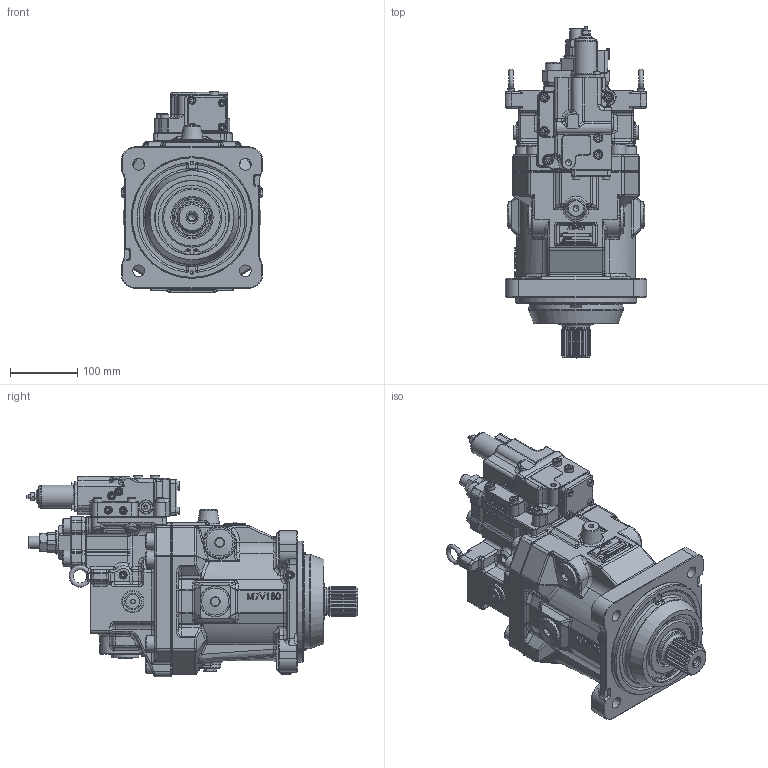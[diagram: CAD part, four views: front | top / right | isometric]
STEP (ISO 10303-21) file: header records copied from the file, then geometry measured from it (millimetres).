
FILE_DESCRIPTION(/* description */ (''),/* implementation_level */ '2;1');
FILE_NAME(/* name */ 'M7V160AC47-AAE#XXXN-01.stp',/* time_stamp */ '2025-12-17T13:58:02Z',/* author */ ('Sjolliffe'),/* organization */ (''),/* preprocessor_version */ 'ST-DEVELOPER v20',/* originating_system */ 'Autodesk Inventor 2024',/* authorisation */ '');
FILE_SCHEMA (('CONFIG_CONTROL_DESIGN'));
Products named in the file (1): M7V160AC47-AAE#XXXN-01
Bounding box: 210 x 493.3 x 300 mm (x, y, z)
Volume: 11236613.6 mm3; surface area: 495758.1 mm2
Topology: 1 solids, 1 shells, 4067 faces, 10288 edges, 6324 vertices
Faces by surface type: plane 1608, cylinder 1329, bspline 517, cone 333, torus 197, sphere 83
Full cylindrical faces by diameter (mm): 1.44 x2, 3 x2, 4.5 x1, 4.917 x2, 6 x2, 8.376 x2, 8.5 x2, 9.4 x19, 10 x5, 10.106 x1, 11 x4, 11.835 x8, 12 x17, 13 x6, 14 x6, 16 x1, 17.5 x5, 18 x1, 19 x1, 21 x3, 24 x13, 25 x2, 26 x12, 31.2 x1, 32 x2, 33 x2, 34.3 x1, 36 x1, 40 x6, 45 x4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
Entity records: 144133 total; most frequent: CARTESIAN_POINT 45075, ORIENTED_EDGE 20298, DIRECTION 19670, EDGE_CURVE 10149, AXIS2_PLACEMENT_3D 7306, VERTEX_POINT 6319, LINE 5058, VECTOR 5058
